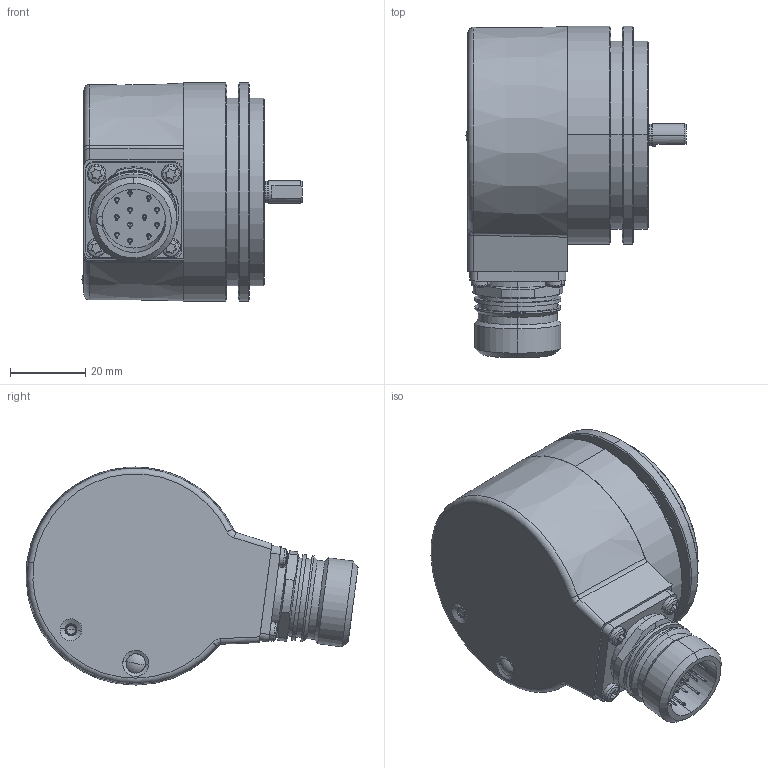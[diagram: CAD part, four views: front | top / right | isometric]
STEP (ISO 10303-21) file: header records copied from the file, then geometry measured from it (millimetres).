
FILE_DESCRIPTION (( 'STEP AP214' ), '1' );
FILE_NAME ('5853.2124.XXXX.STEP', '2008-05-28T05:36:58', ( 'admin' ), ( 'Fritz Kübler GmbH' ), 'SwSTEP 2.0', 'SolidWorks 2007', '' );
FILE_SCHEMA (( 'AUTOMOTIVE_DESIGN' ));
Length unit declared in the file: millimetre
Products named in the file (1): 5853.2124.XXXX
Bounding box: 58.52 x 88.3 x 58 mm (x, y, z)
Surface area: 22827.9 mm2 (no closed solid volume)
Topology: 0 solids, 35 shells, 333 faces, 868 edges, 551 vertices
Faces by surface type: cylinder 137, plane 87, cone 43, sphere 36, torus 26, bspline 4
Entity records: 13965 total; most frequent: DIRECTION 1998, CARTESIAN_POINT 1929, ORIENTED_EDGE 1518, AXIS2_PLACEMENT_3D 848, EDGE_CURVE 844, VERTEX_POINT 551, CIRCLE 518, EDGE_LOOP 380
